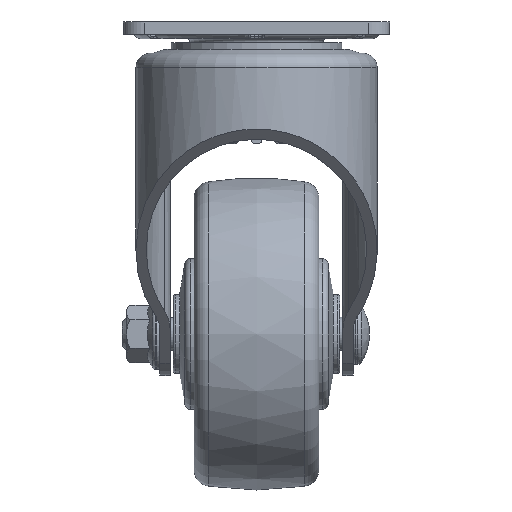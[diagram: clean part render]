
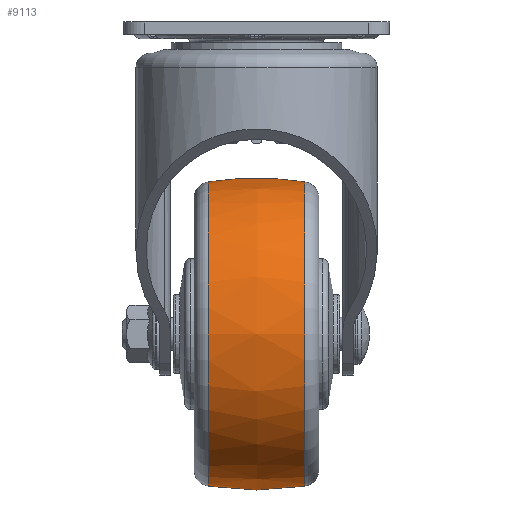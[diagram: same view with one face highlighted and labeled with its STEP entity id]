
A CAD part, left-side view. The second image highlights one B-rep face of the part: STEP entity #9113.
In plain terms, the highlighted free-form (B-spline) face has degree [2, 2] with [3, 9] control points.
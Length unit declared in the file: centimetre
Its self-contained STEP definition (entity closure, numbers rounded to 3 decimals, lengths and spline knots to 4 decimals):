
#2055=(
BOUNDED_CURVE()
B_SPLINE_CURVE(2,(#13652,#13653,#13654),.UNSPECIFIED.,.F.,.F.)
B_SPLINE_CURVE_WITH_KNOTS((3,3),(-0.1556,0.1556),
 .UNSPECIFIED.)
CURVE()
GEOMETRIC_REPRESENTATION_ITEM()
RATIONAL_B_SPLINE_CURVE((1.,0.988,1.))
REPRESENTATION_ITEM('')
);
#2074=(
BOUNDED_SURFACE()
B_SPLINE_SURFACE(2,2,((#13621,#13622,#13623,#13624,#13625,#13626,#13627,
#13628,#13629),(#13630,#13631,#13632,#13633,#13634,#13635,#13636,#13637,
#13638),(#13639,#13640,#13641,#13642,#13643,#13644,#13645,#13646,#13647)),
 .UNSPECIFIED.,.F.,.T.,.F.)
B_SPLINE_SURFACE_WITH_KNOTS((3,3),(3,2,2,2,3),(-0.1556,0.1556),
(-3.1416,-1.5708,0.,1.5708,3.1416),
 .UNSPECIFIED.)
GEOMETRIC_REPRESENTATION_ITEM()
RATIONAL_B_SPLINE_SURFACE(((1.,0.707,1.,0.707,1.,
0.707,1.,0.707,1.),(0.988,0.699,
0.988,0.699,0.988,0.699,
0.988,0.699,0.988),(1.,0.707,
1.,0.707,1.,0.707,1.,0.707,1.)))
REPRESENTATION_ITEM('')
SURFACE()
);
#2318=FACE_OUTER_BOUND('',#2897,.T.);
#2897=EDGE_LOOP('',(#6329,#6330,#6331,#6332,#6333,#6334));
#3622=CIRCLE('',#9696,3.6594);
#3623=CIRCLE('',#9697,3.6594);
#3624=CIRCLE('',#9698,3.6594);
#3625=CIRCLE('',#9699,3.6594);
#4200=VERTEX_POINT('',#13617);
#4201=VERTEX_POINT('',#13618);
#4202=VERTEX_POINT('',#13648);
#4203=VERTEX_POINT('',#13649);
#5039=EDGE_CURVE('',#4200,#4201,#3622,.T.);
#5040=EDGE_CURVE('',#4201,#4200,#3623,.T.);
#5041=EDGE_CURVE('',#4202,#4203,#3624,.T.);
#5042=EDGE_CURVE('',#4203,#4202,#3625,.T.);
#5043=EDGE_CURVE('',#4203,#4201,#2055,.T.);
#6329=ORIENTED_EDGE('',*,*,#5041,.F.);
#6330=ORIENTED_EDGE('',*,*,#5042,.F.);
#6331=ORIENTED_EDGE('',*,*,#5043,.T.);
#6332=ORIENTED_EDGE('',*,*,#5040,.T.);
#6333=ORIENTED_EDGE('',*,*,#5039,.T.);
#6334=ORIENTED_EDGE('',*,*,#5043,.F.);
#9113=ADVANCED_FACE('',(#2318),#2074,.F.);
#9696=AXIS2_PLACEMENT_3D('',#13619,#10830,#10831);
#9697=AXIS2_PLACEMENT_3D('',#13620,#10832,#10833);
#9698=AXIS2_PLACEMENT_3D('',#13650,#10834,#10835);
#9699=AXIS2_PLACEMENT_3D('',#13651,#10836,#10837);
#10830=DIRECTION('center_axis',(0.,1.,0.));
#10831=DIRECTION('ref_axis',(0.,0.,-1.));
#10832=DIRECTION('center_axis',(0.,1.,0.));
#10833=DIRECTION('ref_axis',(0.,0.,-1.));
#10834=DIRECTION('center_axis',(0.,1.,0.));
#10835=DIRECTION('ref_axis',(0.,0.,-1.));
#10836=DIRECTION('center_axis',(0.,1.,0.));
#10837=DIRECTION('ref_axis',(0.,0.,-1.));
#13617=CARTESIAN_POINT('',(-1.7225,5.0055,-6.925));
#13618=CARTESIAN_POINT('',(1.937,5.0055,-3.2656));
#13619=CARTESIAN_POINT('Origin',(1.937,5.0055,-6.925));
#13620=CARTESIAN_POINT('Origin',(1.937,5.0055,-6.925));
#13621=CARTESIAN_POINT('Ctrl Pts',(1.937,5.0055,-3.2656));
#13622=CARTESIAN_POINT('Ctrl Pts',(5.5964,5.0055,-3.2656));
#13623=CARTESIAN_POINT('Ctrl Pts',(5.5964,5.0055,-6.925));
#13624=CARTESIAN_POINT('Ctrl Pts',(5.5964,5.0055,-10.5844));
#13625=CARTESIAN_POINT('Ctrl Pts',(1.937,5.0055,-10.5844));
#13626=CARTESIAN_POINT('Ctrl Pts',(-1.7225,5.0055,-10.5844));
#13627=CARTESIAN_POINT('Ctrl Pts',(-1.7225,5.0055,-6.925));
#13628=CARTESIAN_POINT('Ctrl Pts',(-1.7225,5.0055,-3.2656));
#13629=CARTESIAN_POINT('Ctrl Pts',(1.937,5.0055,-3.2656));
#13630=CARTESIAN_POINT('Ctrl Pts',(1.937,6.1675,-3.0833));
#13631=CARTESIAN_POINT('Ctrl Pts',(5.7786,6.1675,-3.0833));
#13632=CARTESIAN_POINT('Ctrl Pts',(5.7786,6.1675,-6.925));
#13633=CARTESIAN_POINT('Ctrl Pts',(5.7786,6.1675,-10.7667));
#13634=CARTESIAN_POINT('Ctrl Pts',(1.937,6.1675,-10.7667));
#13635=CARTESIAN_POINT('Ctrl Pts',(-1.9047,6.1675,-10.7667));
#13636=CARTESIAN_POINT('Ctrl Pts',(-1.9047,6.1675,-6.925));
#13637=CARTESIAN_POINT('Ctrl Pts',(-1.9047,6.1675,-3.0833));
#13638=CARTESIAN_POINT('Ctrl Pts',(1.937,6.1675,-3.0833));
#13639=CARTESIAN_POINT('Ctrl Pts',(1.937,7.3294,-3.2656));
#13640=CARTESIAN_POINT('Ctrl Pts',(5.5964,7.3294,-3.2656));
#13641=CARTESIAN_POINT('Ctrl Pts',(5.5964,7.3294,-6.925));
#13642=CARTESIAN_POINT('Ctrl Pts',(5.5964,7.3294,-10.5844));
#13643=CARTESIAN_POINT('Ctrl Pts',(1.937,7.3294,-10.5844));
#13644=CARTESIAN_POINT('Ctrl Pts',(-1.7225,7.3294,-10.5844));
#13645=CARTESIAN_POINT('Ctrl Pts',(-1.7225,7.3294,-6.925));
#13646=CARTESIAN_POINT('Ctrl Pts',(-1.7225,7.3294,-3.2656));
#13647=CARTESIAN_POINT('Ctrl Pts',(1.937,7.3294,-3.2656));
#13648=CARTESIAN_POINT('',(-1.7225,7.3294,-6.925));
#13649=CARTESIAN_POINT('',(1.937,7.3294,-3.2656));
#13650=CARTESIAN_POINT('Origin',(1.937,7.3294,-6.925));
#13651=CARTESIAN_POINT('Origin',(1.937,7.3294,-6.925));
#13652=CARTESIAN_POINT('Ctrl Pts',(1.937,7.3294,-3.2656));
#13653=CARTESIAN_POINT('Ctrl Pts',(1.937,6.1675,-3.0833));
#13654=CARTESIAN_POINT('Ctrl Pts',(1.937,5.0055,-3.2656));
